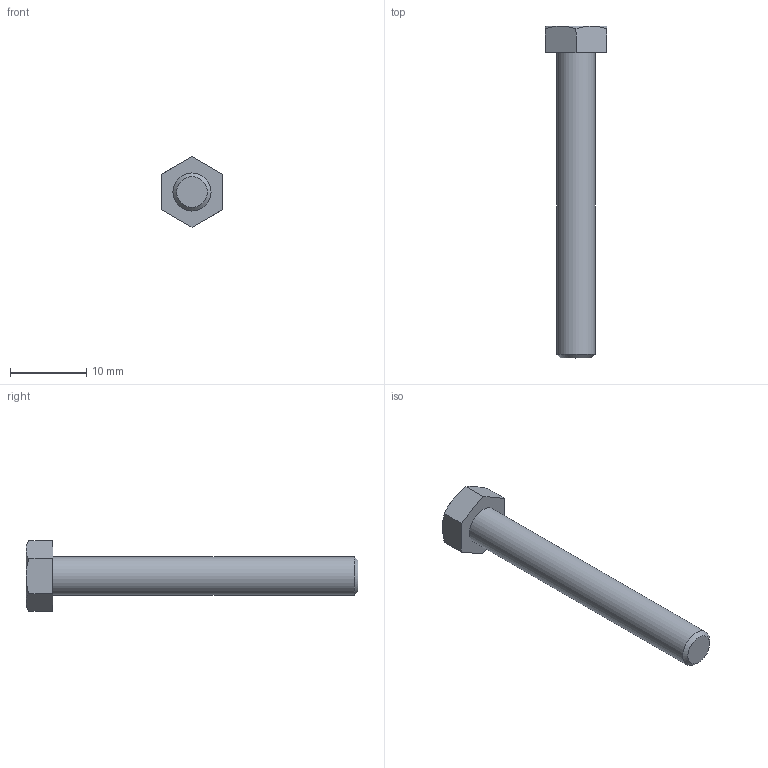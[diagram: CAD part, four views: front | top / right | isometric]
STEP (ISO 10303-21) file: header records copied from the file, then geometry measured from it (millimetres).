
FILE_DESCRIPTION(/* description */ (''),/* implementation_level */ '2;1');
FILE_NAME(/* name */ 'C:\Users\unitec\Documents\Inventor\各種小物\JIS\JIS B 1180 六角ボルト 等級C\hbc5\M5x40.stp',/* time_stamp */ '2015-02-13T14:49:02+09:00',/* author */ ('unitec'),/* organization */ (''),/* preprocessor_version */ 'ST-DEVELOPER v15.2',/* originating_system */ 'Autodesk Inventor 2014',/* authorisation */ '');
FILE_SCHEMA (('AUTOMOTIVE_DESIGN { 1 0 10303 214 3 1 1 }'));
Length unit declared in the file: millimetre
Products named in the file (1): M5x40
Bounding box: 8 x 43.5 x 9.24 mm (x, y, z)
Volume: 977.1 mm3; surface area: 828.7 mm2
Topology: 1 solids, 1 shells, 17 faces, 35 edges, 21 vertices
Faces by surface type: plane 9, cone 7, cylinder 1
Full cylindrical faces by diameter (mm): 5 x1
Entity records: 441 total; most frequent: CARTESIAN_POINT 96, ORIENTED_EDGE 66, DIRECTION 66, EDGE_CURVE 33, AXIS2_PLACEMENT_3D 27, VERTEX_POINT 21, EDGE_LOOP 20, ADVANCED_FACE 17
